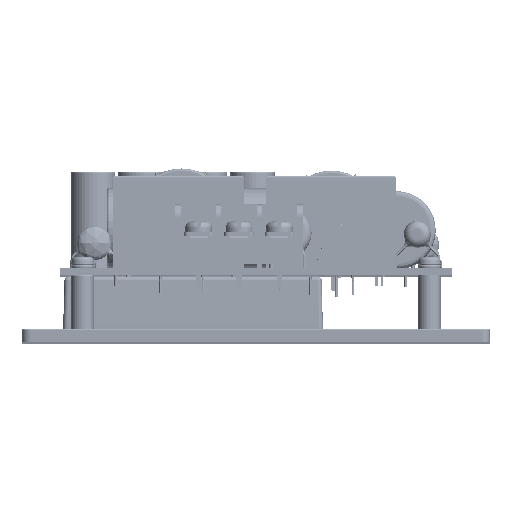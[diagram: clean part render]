
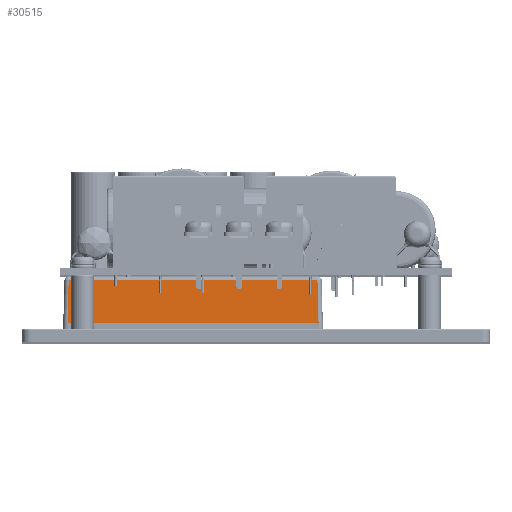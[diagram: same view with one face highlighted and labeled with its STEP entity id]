
A CAD part, top view. The second image highlights one B-rep face of the part: STEP entity #30515.
In plain terms, the highlighted planar face has unit normal (0, 0.026, 1).
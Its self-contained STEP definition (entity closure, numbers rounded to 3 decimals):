
#650 = CARTESIAN_POINT ( 'NONE',  ( 14.438, 14.526, 46.487 ) ) ;
#1612 = DIRECTION ( 'NONE',  ( -1., 0., 0. ) ) ;
#8128 = VERTEX_POINT ( 'NONE', #75785 ) ;
#13642 = CARTESIAN_POINT ( 'NONE',  ( -45.3, 4.5, 46.75 ) ) ;
#18175 = EDGE_CURVE ( 'NONE', #86014, #189241, #223016, .T. ) ;
#18258 = CARTESIAN_POINT ( 'NONE',  ( 14.7, 4.5, 46.75 ) ) ;
#19997 = DIRECTION ( 'NONE',  ( 1., 0., 0. ) ) ;
#20286 = VECTOR ( 'NONE', #121907, 1000. ) ;
#21060 = EDGE_CURVE ( 'NONE', #255951, #224427, #164120, .T. ) ;
#23961 = DIRECTION ( 'NONE',  ( 0., 0.026, 1. ) ) ;
#30515 = ADVANCED_FACE ( 'NONE', ( #185507 ), #261240, .T. ) ;
#35569 = EDGE_CURVE ( 'NONE', #189241, #255951, #321311, .T. ) ;
#46833 = CARTESIAN_POINT ( 'NONE',  ( 14.7, 4.5, 46.75 ) ) ;
#48335 = CARTESIAN_POINT ( 'NONE',  ( 14.7, 4.5, 45.75 ) ) ;
#50029 = DIRECTION ( 'NONE',  ( -1., 0., 0. ) ) ;
#60735 = CARTESIAN_POINT ( 'NONE',  ( -44.3, 4.5, 46.75 ) ) ;
#60956 = ORIENTED_EDGE ( 'NONE', *, *, #152284, .T. ) ;
#70257 = CARTESIAN_POINT ( 'NONE',  ( 14.7, 4.5, 46.75 ) ) ;
#75785 = CARTESIAN_POINT ( 'NONE',  ( 14.7, 4.5, 46.75 ) ) ;
#79244 = AXIS2_PLACEMENT_3D ( 'NONE', #46833, #23961, #238161 ) ;
#86014 = VERTEX_POINT ( 'NONE', #70257 ) ;
#89521 = DIRECTION ( 'NONE',  ( -0.026, 0.999, -0.026 ) ) ;
#115491 = CARTESIAN_POINT ( 'NONE',  ( -44.3, 4.5, 46.75 ) ) ;
#120799 = DIRECTION ( 'NONE',  ( -1., 0., 0. ) ) ;
#121907 = DIRECTION ( 'NONE',  ( -0.026, -0.999, 0.026 ) ) ;
#135532 = ORIENTED_EDGE ( 'NONE', *, *, #170204, .F. ) ;
#152284 = EDGE_CURVE ( 'NONE', #8128, #86014, #191223, .T. ) ;
#164120 = LINE ( 'NONE', #278408, #20286 ) ;
#168800 = CARTESIAN_POINT ( 'NONE',  ( -44.038, 14.526, 46.487 ) ) ;
#170204 = EDGE_CURVE ( 'NONE', #8128, #275224, #280707, .T. ) ;
#180067 = DIRECTION ( 'NONE',  ( 0., 1., 0. ) ) ;
#185507 = FACE_OUTER_BOUND ( 'NONE', #245761, .T. ) ;
#189241 = VERTEX_POINT ( 'NONE', #650 ) ;
#191223 = CIRCLE ( 'NONE', #219015, 1. ) ;
#201553 = ORIENTED_EDGE ( 'NONE', *, *, #319409, .T. ) ;
#205192 = VECTOR ( 'NONE', #120799, 1000. ) ;
#212887 = VECTOR ( 'NONE', #89521, 1000. ) ;
#219015 = AXIS2_PLACEMENT_3D ( 'NONE', #48335, #180067, #50029 ) ;
#220858 = VECTOR ( 'NONE', #19997, 1000. ) ;
#223016 = LINE ( 'NONE', #249422, #212887 ) ;
#224427 = VERTEX_POINT ( 'NONE', #115491 ) ;
#234888 = ORIENTED_EDGE ( 'NONE', *, *, #18175, .T. ) ;
#237607 = LINE ( 'NONE', #18258, #220858 ) ;
#238161 = DIRECTION ( 'NONE',  ( 0., -1., 0.026 ) ) ;
#245761 = EDGE_LOOP ( 'NONE', ( #201553, #135532, #60956, #234888, #320455, #279375 ) ) ;
#249422 = CARTESIAN_POINT ( 'NONE',  ( 14.7, 4.5, 46.75 ) ) ;
#255951 = VERTEX_POINT ( 'NONE', #168800 ) ;
#261240 = PLANE ( 'NONE',  #79244 ) ;
#265168 = CARTESIAN_POINT ( 'NONE',  ( -45.012, 14.526, 46.487 ) ) ;
#275224 = VERTEX_POINT ( 'NONE', #60735 ) ;
#278408 = CARTESIAN_POINT ( 'NONE',  ( -44.26, 6.043, 46.71 ) ) ;
#279375 = ORIENTED_EDGE ( 'NONE', *, *, #21060, .T. ) ;
#280707 = LINE ( 'NONE', #13642, #205192 ) ;
#301186 = VECTOR ( 'NONE', #1612, 1000. ) ;
#319409 = EDGE_CURVE ( 'NONE', #224427, #275224, #237607, .T. ) ;
#320455 = ORIENTED_EDGE ( 'NONE', *, *, #35569, .T. ) ;
#321311 = LINE ( 'NONE', #265168, #301186 ) ;
